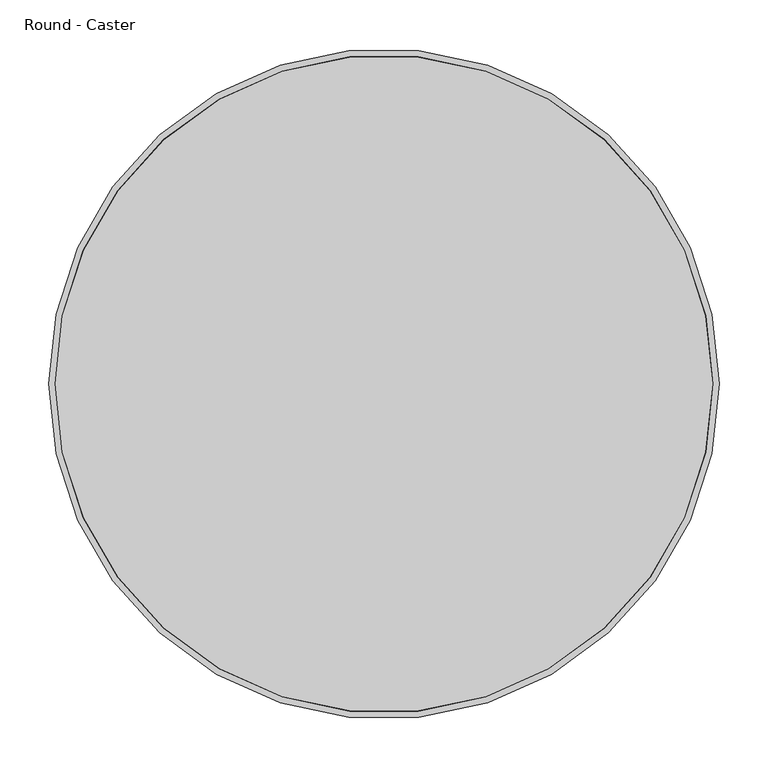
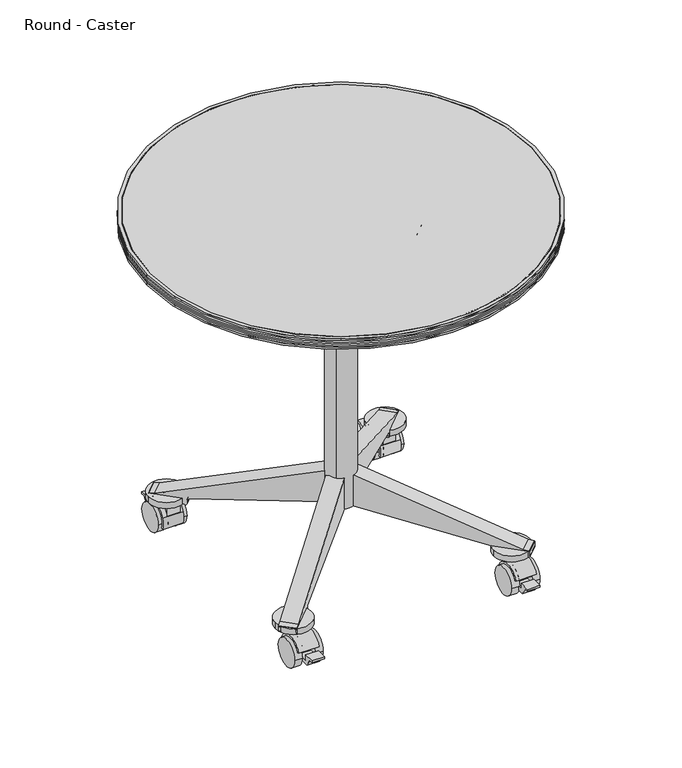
"""IFC4 building model written with IfcOpenShell, lengths in millimetres: furniture geometry, Coalesse_AM_Table_Conference_Ballet_Side : Round - Caster."""

from ifc_helpers import new_model, si_unit, point, frame, frame_2d, origin, origin_with_axes, origin_2d, place, context, project, spatial, polyline, circle_curve, trimmed, segment, composite_curve, outline, extrude, source, transform, mapped, element, save
from ifc_brep_helpers import plane_surface, cylinder_surface, revolved_surface, advanced_brep


def round_caster_d703c492(model_context):
    return source(origin(), model_context, "Body", "SolidModel", [
        extrude(outline(composite_curve([segment(polyline([(-37.2834365, 26.9246599), (-26.8661847, 37.3419116)]), True, "CONTINUOUS"), segment(trimmed(circle_curve(frame_2d((0.0745836, 10.4011432)), 38.1), [point((-26.8661847, 37.3419116))], [point((27.015352, 37.3419116))], False, "CARTESIAN"), True, "CONTINUOUS"), segment(polyline([(27.015352, 37.3419116), (38.9313594, 25.4259042)]), True, "CONTINUOUS"), segment(trimmed(circle_curve(frame_2d((13.4893466, -0.0161085)), 35.9804395), [point((38.9313594, 25.4259042))], [point((38.9313594, -25.4581212))], False, "CARTESIAN"), True, "CONTINUOUS"), segment(polyline([(38.9313594, -25.4581212), (27.015352, -37.3741286)]), True, "CONTINUOUS"), segment(trimmed(circle_curve(frame_2d((0.0745836, -10.4333602)), 38.1), [point((27.015352, -37.3741286))], [point((-26.8661847, -37.3741286))], False, "CARTESIAN"), True, "CONTINUOUS"), segment(polyline([(-26.8661847, -37.3741286), (-37.2834365, -26.9568769)]), True, "CONTINUOUS"), segment(trimmed(circle_curve(frame_2d((-10.3426681, -0.0161085)), 38.1), [point((-37.2834365, -26.9568769))], [point((-37.2834365, 26.9246599))], False, "CARTESIAN"), True, "CONTINUOUS")], self_intersect=False)), frame((0.0, 0.0, 536.3169247), z_axis=(0.0, 0.0, 1.0), x_axis=(1.0, 0.0, 0.0)), (0.0, 0.0, 1.0), 50.3081696),
        extrude(outline(composite_curve([segment(polyline([(-81.1409418, 49.3084633), (-49.5692956, 80.8801095)]), True, "CONTINUOUS"), segment(trimmed(circle_curve(frame_2d((0.0, 156.1108358)), 90.0931587), [point((-49.5692956, 80.8801095))], [point((49.871233, 81.0799264))], True, "CARTESIAN"), True, "CONTINUOUS"), segment(polyline([(49.871233, 81.0799264), (81.1309866, 49.8201728)]), True, "CONTINUOUS"), segment(trimmed(circle_curve(frame_2d((153.3620811, 0.0)), 87.7461145), [point((81.1309866, 49.8201728))], [point((81.7629451, -50.7241989))], True, "CARTESIAN"), True, "CONTINUOUS"), segment(polyline([(81.7629451, -50.7241989), (50.5881651, -81.8989789)]), True, "CONTINUOUS"), segment(trimmed(circle_curve(frame_2d((0.0, -154.7295322)), 88.6761069), [point((50.5881651, -81.8989789))], [point((-51.0893198, -82.2496499))], True, "CARTESIAN"), True, "CONTINUOUS"), segment(polyline([(-51.0893198, -82.2496499), (-82.3248918, -51.014078)]), True, "CONTINUOUS"), segment(trimmed(circle_curve(frame_2d((-153.9959305, 0.0)), 87.9725749), [point((-82.3248918, -51.014078))], [point((-81.1409418, 49.3084633))], True, "CARTESIAN"), True, "CONTINUOUS")], self_intersect=False)), frame((0.0, 0.0, 563.948073), z_axis=(0.0, 0.0, 1.0), x_axis=(1.0, 0.0, 0.0)), (0.0, 0.0, 1.0), 22.6770213),
        extrude(outline(composite_curve([segment(polyline([(114.3, 0.0), (115.2263736, -5.2537258)]), True, "CONTINUOUS"), segment(trimmed(circle_curve(frame_2d((109.4080133, -6.2796597)), 5.9081179), [point((115.2263736, -5.2537258))], [point((112.3666622, -11.3935872))], False, "CARTESIAN"), True, "CONTINUOUS"), segment(trimmed(circle_curve(frame_2d((-123.1481635, 395.6860679)), 470.2989248), [point((112.3666622, -11.3935872))], [point((-41.1216208, -67.404339))], False, "CARTESIAN"), True, "CONTINUOUS"), segment(trimmed(circle_curve(frame_2d((-123.1481635, 395.6860679)), 470.2989248), [point((-41.1216208, -67.404339))], [point((-66.3652264, -71.172344))], False, "CARTESIAN"), True, "CONTINUOUS"), segment(trimmed(circle_curve(frame_2d((-64.5887584, -85.7781231)), 14.7134164), [point((-66.3652264, -71.172344))], [point((-76.9601862, -77.8136775))], True, "CARTESIAN"), True, "CONTINUOUS"), segment(trimmed(circle_curve(frame_2d((-64.5887584, -85.7781231)), 14.7134164), [point((-76.9601862, -77.8136775))], [point((-79.0764227, -88.3456516))], True, "CARTESIAN"), True, "CONTINUOUS"), segment(trimmed(circle_curve(frame_2d((-82.4829244, -88.9493576)), 3.4595829), [point((-79.0764227, -88.3456516))], [point((-81.6450497, -92.3059452))], False, "CARTESIAN"), True, "CONTINUOUS"), segment(polyline([(-81.6450497, -92.3059452), (-160.9573766, -92.3059452)]), True, "CONTINUOUS"), segment(trimmed(circle_curve(frame_2d((-160.119502, -88.9493576)), 3.4595829), [point((-160.9573766, -92.3059452))], [point((-163.5260036, -88.3456516))], False, "CARTESIAN"), True, "CONTINUOUS"), segment(trimmed(circle_curve(frame_2d((-178.0136679, -85.7781231)), 14.7134164), [point((-163.5260036, -88.3456516))], [point((-165.6422401, -77.8136775))], True, "CARTESIAN"), True, "CONTINUOUS"), segment(trimmed(circle_curve(frame_2d((-178.0136679, -85.7781231)), 14.7134164), [point((-165.6422401, -77.8136775))], [point((-176.2372, -71.172344))], True, "CARTESIAN"), True, "CONTINUOUS"), segment(trimmed(circle_curve(frame_2d((-119.4542628, 395.6860679)), 470.2989248), [point((-176.2372, -71.172344))], [point((-201.4808056, -67.404339))], False, "CARTESIAN"), True, "CONTINUOUS"), segment(trimmed(circle_curve(frame_2d((-119.4542628, 395.6860679)), 470.2989248), [point((-201.4808056, -67.404339))], [point((-354.9690885, -11.3935872))], False, "CARTESIAN"), True, "CONTINUOUS"), segment(trimmed(circle_curve(frame_2d((-352.0104397, -6.2796597)), 5.9081179), [point((-354.9690885, -11.3935872))], [point((-357.8288, -5.2537258))], False, "CARTESIAN"), True, "CONTINUOUS"), segment(polyline([(-357.8288, -5.2537258), (-356.9024264, 0.0), (-242.6024263, 0.0)]), True, "CONTINUOUS"), segment(trimmed(circle_curve(frame_2d((-184.587638, 17.529313)), 60.6052183), [point((-242.6024263, 0.0))], [point((-195.8254097, -42.0249058))], True, "CARTESIAN"), True, "CONTINUOUS"), segment(trimmed(circle_curve(frame_2d((-133.7603939, 286.8867003)), 334.7161645), [point((-195.8254097, -42.0249058))], [point((-152.4418907, -47.3077229))], True, "CARTESIAN"), True, "CONTINUOUS"), segment(trimmed(circle_curve(frame_2d((-151.7916573, -35.6756582)), 11.6502245), [point((-152.4418907, -47.3077229))], [point((-142.023608, -42.0249058))], True, "CARTESIAN"), True, "CONTINUOUS"), segment(polyline([(-142.023608, -42.0249058), (-100.5788184, -42.0249058)]), True, "CONTINUOUS"), segment(trimmed(circle_curve(frame_2d((-90.810769, -35.6756582)), 11.6502245), [point((-100.5788184, -42.0249058))], [point((-90.1605356, -47.3077229))], True, "CARTESIAN"), True, "CONTINUOUS"), segment(trimmed(circle_curve(frame_2d((-108.8420324, 286.8867003)), 334.7161645), [point((-90.1605356, -47.3077229))], [point((-46.7770167, -42.0249058))], True, "CARTESIAN"), True, "CONTINUOUS"), segment(trimmed(circle_curve(frame_2d((-58.0147883, 17.529313)), 60.6052183), [point((-46.7770167, -42.0249058))], [point((0.0, 0.0))], True, "CARTESIAN"), True, "CONTINUOUS"), segment(polyline([(0.0, 0.0), (114.3, 0.0)]), True, "CONTINUOUS")], self_intersect=False)), frame((-101.4283173, 70.1175035, 628.65), z_axis=(0.7071067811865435, 0.7071067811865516, 0.0), x_axis=(-0.7071067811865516, 0.7071067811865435, 0.0)), (0.0, 0.0, 1.0), 44.2801776),
        extrude(outline(composite_curve([segment(polyline([(114.3, 0.0), (115.2263736, -5.2537258)]), True, "CONTINUOUS"), segment(trimmed(circle_curve(frame_2d((109.4080133, -6.2796597)), 5.9081179), [point((115.2263736, -5.2537258))], [point((112.3666622, -11.3935872))], False, "CARTESIAN"), True, "CONTINUOUS"), segment(trimmed(circle_curve(frame_2d((-123.1481635, 395.6860679)), 470.2989248), [point((112.3666622, -11.3935872))], [point((-41.1216208, -67.404339))], False, "CARTESIAN"), True, "CONTINUOUS"), segment(trimmed(circle_curve(frame_2d((-123.1481635, 395.6860679)), 470.2989248), [point((-41.1216208, -67.404339))], [point((-66.3652264, -71.172344))], False, "CARTESIAN"), True, "CONTINUOUS"), segment(trimmed(circle_curve(frame_2d((-64.5887584, -85.7781231)), 14.7134164), [point((-66.3652264, -71.172344))], [point((-76.9601862, -77.8136775))], True, "CARTESIAN"), True, "CONTINUOUS"), segment(trimmed(circle_curve(frame_2d((-64.5887584, -85.7781231)), 14.7134164), [point((-76.9601862, -77.8136775))], [point((-79.0764227, -88.3456516))], True, "CARTESIAN"), True, "CONTINUOUS"), segment(trimmed(circle_curve(frame_2d((-82.4829244, -88.9493576)), 3.4595829), [point((-79.0764227, -88.3456516))], [point((-81.6450497, -92.3059452))], False, "CARTESIAN"), True, "CONTINUOUS"), segment(polyline([(-81.6450497, -92.3059452), (-160.9573766, -92.3059452)]), True, "CONTINUOUS"), segment(trimmed(circle_curve(frame_2d((-160.119502, -88.9493576)), 3.4595829), [point((-160.9573766, -92.3059452))], [point((-163.5260036, -88.3456516))], False, "CARTESIAN"), True, "CONTINUOUS"), segment(trimmed(circle_curve(frame_2d((-178.0136679, -85.7781231)), 14.7134164), [point((-163.5260036, -88.3456516))], [point((-165.6422401, -77.8136775))], True, "CARTESIAN"), True, "CONTINUOUS"), segment(trimmed(circle_curve(frame_2d((-178.0136679, -85.7781231)), 14.7134164), [point((-165.6422401, -77.8136775))], [point((-176.2372, -71.172344))], True, "CARTESIAN"), True, "CONTINUOUS"), segment(trimmed(circle_curve(frame_2d((-119.4542628, 395.6860679)), 470.2989248), [point((-176.2372, -71.172344))], [point((-201.4808056, -67.404339))], False, "CARTESIAN"), True, "CONTINUOUS"), segment(trimmed(circle_curve(frame_2d((-119.4542628, 395.6860679)), 470.2989248), [point((-201.4808056, -67.404339))], [point((-354.9690885, -11.3935872))], False, "CARTESIAN"), True, "CONTINUOUS"), segment(trimmed(circle_curve(frame_2d((-352.0104397, -6.2796597)), 5.9081179), [point((-354.9690885, -11.3935872))], [point((-357.8288, -5.2537258))], False, "CARTESIAN"), True, "CONTINUOUS"), segment(polyline([(-357.8288, -5.2537258), (-356.9024264, 0.0), (-242.6024263, 0.0)]), True, "CONTINUOUS"), segment(trimmed(circle_curve(frame_2d((-184.587638, 17.529313)), 60.6052183), [point((-242.6024263, 0.0))], [point((-195.8254097, -42.0249058))], True, "CARTESIAN"), True, "CONTINUOUS"), segment(trimmed(circle_curve(frame_2d((-133.7603939, 286.8867003)), 334.7161645), [point((-195.8254097, -42.0249058))], [point((-152.4418907, -47.3077229))], True, "CARTESIAN"), True, "CONTINUOUS"), segment(trimmed(circle_curve(frame_2d((-151.7916573, -35.6756582)), 11.6502245), [point((-152.4418907, -47.3077229))], [point((-142.023608, -42.0249058))], True, "CARTESIAN"), True, "CONTINUOUS"), segment(polyline([(-142.023608, -42.0249058), (-100.5788184, -42.0249058)]), True, "CONTINUOUS"), segment(trimmed(circle_curve(frame_2d((-90.810769, -35.6756582)), 11.6502245), [point((-100.5788184, -42.0249058))], [point((-90.1605356, -47.3077229))], True, "CARTESIAN"), True, "CONTINUOUS"), segment(trimmed(circle_curve(frame_2d((-108.8420324, 286.8867003)), 334.7161645), [point((-90.1605356, -47.3077229))], [point((-46.7770167, -42.0249058))], True, "CARTESIAN"), True, "CONTINUOUS"), segment(trimmed(circle_curve(frame_2d((-58.0147883, 17.529313)), 60.6052183), [point((-46.7770167, -42.0249058))], [point((0.0, 0.0))], True, "CARTESIAN"), True, "CONTINUOUS"), segment(polyline([(0.0, 0.0), (114.3, 0.0)]), True, "CONTINUOUS")], self_intersect=False)), frame((-70.1175035, -101.4283173, 628.65), z_axis=(-0.7071067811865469, 0.7071067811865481, 0.0), x_axis=(-0.7071067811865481, -0.7071067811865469, 0.0)), (0.0, 0.0, 1.0), 44.2801776),
        extrude(outline(composite_curve([segment(trimmed(circle_curve(frame_2d((209.2741105, 25.3444377)), 28.8343721), [point((182.4395783, 14.7931869))], [point((182.4395783, 35.8956886))], False, "CARTESIAN"), True, "CONTINUOUS"), segment(trimmed(circle_curve(frame_2d((207.8788336, 25.8930561)), 27.3351124), [point((182.4395783, 35.8956886))], [point((197.8152878, 51.3082762))], False, "CARTESIAN"), True, "CONTINUOUS"), segment(trimmed(circle_curve(frame_2d((209.4353674, 26.7032164)), 27.2109394), [point((197.8152878, 51.3082762))], [point((234.6796249, 36.8601197))], False, "CARTESIAN"), True, "CONTINUOUS"), segment(polyline([(234.6796249, 36.8601197), (231.2540436, 35.7749086)]), True, "CONTINUOUS"), segment(trimmed(circle_curve(frame_2d((208.7663144, 24.9907393)), 24.9398531), [point((231.2540436, 35.7749086))], [point((185.3508649, 16.4051117))], True, "CARTESIAN"), True, "CONTINUOUS"), segment(polyline([(185.3508649, 16.4051117), (182.4395783, 14.7931869)]), True, "CONTINUOUS")], self_intersect=False)), frame((174.0984431, 0.0, 0.0), z_axis=(1.0, 0.0, 0.0), x_axis=(0.0, 1.0, 0.0)), (0.0, 0.0, 1.0), 36.0286787),
        extrude(outline(composite_curve([segment(trimmed(circle_curve(frame_2d((208.7663144, 24.9907393)), 24.9398531), [point((233.7061675, 24.9907393))], [point((183.8264612, 24.9907393))], False, "CARTESIAN"), True, "CONTINUOUS"), segment(trimmed(circle_curve(frame_2d((208.7663144, 24.9907393)), 24.9398531), [point((183.8264612, 24.9907393))], [point((233.7061675, 24.9907393))], False, "CARTESIAN"), True, "CONTINUOUS")], self_intersect=False)), frame((166.2968952, 0.0, 0.0), z_axis=(1.0, 0.0, 0.0), x_axis=(0.0, 1.0, 0.0)), (0.0, 0.0, 1.0), 14.6120158),
        extrude(outline(composite_curve([segment(polyline([(197.8152878, 63.5225277), (197.8152878, 51.3082762)]), True, "CONTINUOUS"), segment(trimmed(circle_curve(frame_2d((209.4353674, 26.7032164)), 27.2109394), [point((197.8152878, 51.3082762))], [point((234.6796249, 36.8601197))], False, "CARTESIAN"), True, "CONTINUOUS"), segment(polyline([(234.6796249, 36.8601197), (219.8001714, 32.1463658), (222.0637731, 25.0010719), (241.3530844, 25.0010719), (241.3530844, 35.1210973), (260.4030844, 35.1210973), (260.4030844, 31.7691038), (253.6776476, 31.7691038), (244.706152, 17.4117096), (218.9375545, 17.4117096)]), True, "CONTINUOUS"), segment(trimmed(circle_curve(frame_2d((208.672695, 25.0010719)), 12.7658043), [point((218.9375545, 17.4117096))], [point((198.9802659, 16.6930892))], False, "CARTESIAN"), True, "CONTINUOUS"), segment(polyline([(198.9802659, 16.6930892), (195.904393, 22.2484025), (182.4395783, 14.7931869)]), True, "CONTINUOUS"), segment(trimmed(circle_curve(frame_2d((209.2741105, 25.3444377)), 28.8343721), [point((182.4395783, 14.7931869))], [point((182.4395783, 35.8956886))], False, "CARTESIAN"), True, "CONTINUOUS"), segment(polyline([(182.4395783, 35.8956886), (182.4395783, 63.5225277), (197.8152878, 63.5225277)]), True, "CONTINUOUS")], self_intersect=False)), frame((179.2633359, 0.0, 0.0), z_axis=(1.0, 0.0, 0.0), x_axis=(0.0, 1.0, 0.0)), (0.0, 0.0, 1.0), 22.3970625),
        extrude(outline(composite_curve([segment(trimmed(circle_curve(frame_2d((208.7663144, 24.9907393)), 24.9398531), [point((233.7061675, 24.9907393))], [point((183.8264612, 24.9907393))], False, "CARTESIAN"), True, "CONTINUOUS"), segment(trimmed(circle_curve(frame_2d((208.7663144, 24.9907393)), 24.9398531), [point((183.8264612, 24.9907393))], [point((233.7061675, 24.9907393))], False, "CARTESIAN"), True, "CONTINUOUS")], self_intersect=False)), frame((203.3322938, 0.0, 0.0), z_axis=(1.0, 0.0, 0.0), x_axis=(0.0, 1.0, 0.0)), (0.0, 0.0, 1.0), 13.7103424),
        extrude(outline(composite_curve([segment(trimmed(circle_curve(frame_2d((209.2741105, 25.3444377)), 28.8343721), [point((182.4395783, 14.7931869))], [point((182.4395783, 35.8956886))], False, "CARTESIAN"), True, "CONTINUOUS"), segment(trimmed(circle_curve(frame_2d((207.8788336, 25.8930561)), 27.3351124), [point((182.4395783, 35.8956886))], [point((197.8152878, 51.3082762))], False, "CARTESIAN"), True, "CONTINUOUS"), segment(trimmed(circle_curve(frame_2d((209.4353674, 26.7032164)), 27.2109394), [point((197.8152878, 51.3082762))], [point((234.6796249, 36.8601197))], False, "CARTESIAN"), True, "CONTINUOUS"), segment(polyline([(234.6796249, 36.8601197), (231.2540436, 35.7749086)]), True, "CONTINUOUS"), segment(trimmed(circle_curve(frame_2d((208.7663144, 24.9907393)), 24.9398531), [point((231.2540436, 35.7749086))], [point((185.3508649, 16.4051117))], True, "CARTESIAN"), True, "CONTINUOUS"), segment(polyline([(185.3508649, 16.4051117), (182.4395783, 14.7931869)]), True, "CONTINUOUS")], self_intersect=False)), frame((-210.1271218, 0.0, 0.0), z_axis=(1.0, 0.0, 0.0), x_axis=(0.0, 1.0, 0.0)), (0.0, 0.0, 1.0), 36.0286787),
        extrude(outline(composite_curve([segment(trimmed(circle_curve(frame_2d((208.7663144, 24.9907393)), 24.9398531), [point((233.7061675, 24.9907393))], [point((183.8264612, 24.9907393))], False, "CARTESIAN"), True, "CONTINUOUS"), segment(trimmed(circle_curve(frame_2d((208.7663144, 24.9907393)), 24.9398531), [point((183.8264612, 24.9907393))], [point((233.7061675, 24.9907393))], False, "CARTESIAN"), True, "CONTINUOUS")], self_intersect=False)), frame((-180.908911, 0.0, 0.0), z_axis=(1.0, 0.0, 0.0), x_axis=(0.0, 1.0, 0.0)), (0.0, 0.0, 1.0), 14.6120158),
        extrude(outline(composite_curve([segment(polyline([(197.8152878, 63.5225277), (197.8152878, 51.3082762)]), True, "CONTINUOUS"), segment(trimmed(circle_curve(frame_2d((209.4353674, 26.7032164)), 27.2109394), [point((197.8152878, 51.3082762))], [point((234.6796249, 36.8601197))], False, "CARTESIAN"), True, "CONTINUOUS"), segment(polyline([(234.6796249, 36.8601197), (219.8001714, 32.1463658), (222.0637731, 25.0010719), (241.3530844, 25.0010719), (241.3530844, 35.1210973), (260.4030844, 35.1210973), (260.4030844, 31.7691038), (253.6776476, 31.7691038), (244.706152, 17.4117096), (218.9375545, 17.4117096)]), True, "CONTINUOUS"), segment(trimmed(circle_curve(frame_2d((208.672695, 25.0010719)), 12.7658043), [point((218.9375545, 17.4117096))], [point((198.9802659, 16.6930892))], False, "CARTESIAN"), True, "CONTINUOUS"), segment(polyline([(198.9802659, 16.6930892), (195.904393, 22.2484025), (182.4395783, 14.7931869)]), True, "CONTINUOUS"), segment(trimmed(circle_curve(frame_2d((209.2741105, 25.3444377)), 28.8343721), [point((182.4395783, 14.7931869))], [point((182.4395783, 35.8956886))], False, "CARTESIAN"), True, "CONTINUOUS"), segment(polyline([(182.4395783, 35.8956886), (182.4395783, 63.5225277), (197.8152878, 63.5225277)]), True, "CONTINUOUS")], self_intersect=False)), frame((-201.6603984, 0.0, 0.0), z_axis=(1.0, 0.0, 0.0), x_axis=(0.0, 1.0, 0.0)), (0.0, 0.0, 1.0), 22.3970625),
        extrude(outline(composite_curve([segment(trimmed(circle_curve(frame_2d((208.7663144, 24.9907393)), 24.9398531), [point((233.7061675, 24.9907393))], [point((183.8264612, 24.9907393))], False, "CARTESIAN"), True, "CONTINUOUS"), segment(trimmed(circle_curve(frame_2d((208.7663144, 24.9907393)), 24.9398531), [point((183.8264612, 24.9907393))], [point((233.7061675, 24.9907393))], False, "CARTESIAN"), True, "CONTINUOUS")], self_intersect=False)), frame((-217.0426362, 0.0, 0.0), z_axis=(1.0, 0.0, 0.0), x_axis=(0.0, 1.0, 0.0)), (0.0, 0.0, 1.0), 13.7103424),
        extrude(outline(composite_curve([segment(polyline([(-182.4395783, 14.7931869), (-185.3508649, 16.4051117)]), True, "CONTINUOUS"), segment(trimmed(circle_curve(frame_2d((-208.7663144, 24.9907393)), 24.9398531), [point((-185.3508649, 16.4051117))], [point((-231.2540436, 35.7749086))], True, "CARTESIAN"), True, "CONTINUOUS"), segment(polyline([(-231.2540436, 35.7749086), (-234.6796249, 36.8601197)]), True, "CONTINUOUS"), segment(trimmed(circle_curve(frame_2d((-209.4353674, 26.7032164)), 27.2109394), [point((-234.6796249, 36.8601197))], [point((-197.8152878, 51.3082762))], False, "CARTESIAN"), True, "CONTINUOUS"), segment(trimmed(circle_curve(frame_2d((-207.8788336, 25.8930561)), 27.3351124), [point((-197.8152878, 51.3082762))], [point((-182.4395783, 35.8956886))], False, "CARTESIAN"), True, "CONTINUOUS"), segment(trimmed(circle_curve(frame_2d((-209.2741105, 25.3444377)), 28.8343721), [point((-182.4395783, 35.8956886))], [point((-182.4395783, 14.7931869))], False, "CARTESIAN"), True, "CONTINUOUS")], self_intersect=False)), frame((-210.1271218, 0.0, 0.0), z_axis=(1.0, 0.0, 0.0), x_axis=(0.0, 1.0, 0.0)), (0.0, 0.0, 1.0), 36.0286787),
        extrude(outline(composite_curve([segment(trimmed(circle_curve(frame_2d((-208.7663144, 24.9907393)), 24.9398531), [point((-233.7061675, 24.9907393))], [point((-183.8264612, 24.9907393))], False, "CARTESIAN"), True, "CONTINUOUS"), segment(trimmed(circle_curve(frame_2d((-208.7663144, 24.9907393)), 24.9398531), [point((-183.8264612, 24.9907393))], [point((-233.7061675, 24.9907393))], False, "CARTESIAN"), True, "CONTINUOUS")], self_intersect=False)), frame((-180.908911, 0.0, 0.0), z_axis=(1.0, 0.0, 0.0), x_axis=(0.0, 1.0, 0.0)), (0.0, 0.0, 1.0), 14.6120158),
        extrude(outline(composite_curve([segment(polyline([(-197.8152878, 63.5225277), (-182.4395783, 63.5225277), (-182.4395783, 35.8956886)]), True, "CONTINUOUS"), segment(trimmed(circle_curve(frame_2d((-209.2741105, 25.3444377)), 28.8343721), [point((-182.4395783, 35.8956886))], [point((-182.4395783, 14.7931869))], False, "CARTESIAN"), True, "CONTINUOUS"), segment(polyline([(-182.4395783, 14.7931869), (-195.904393, 22.2484025), (-198.9802659, 16.6930892)]), True, "CONTINUOUS"), segment(trimmed(circle_curve(frame_2d((-208.672695, 25.0010719)), 12.7658043), [point((-198.9802659, 16.6930892))], [point((-218.9375545, 17.4117096))], False, "CARTESIAN"), True, "CONTINUOUS"), segment(polyline([(-218.9375545, 17.4117096), (-244.706152, 17.4117096), (-253.6776476, 31.7691038), (-260.4030844, 31.7691038), (-260.4030844, 35.1210973), (-241.3530844, 35.1210973), (-241.3530844, 25.0010719), (-222.0637731, 25.0010719), (-219.8001714, 32.1463658), (-234.6796249, 36.8601197)]), True, "CONTINUOUS"), segment(trimmed(circle_curve(frame_2d((-209.4353674, 26.7032164)), 27.2109394), [point((-234.6796249, 36.8601197))], [point((-197.8152878, 51.3082762))], False, "CARTESIAN"), True, "CONTINUOUS"), segment(polyline([(-197.8152878, 51.3082762), (-197.8152878, 63.5225277)]), True, "CONTINUOUS")], self_intersect=False)), frame((-201.6603984, 0.0, 0.0), z_axis=(1.0, 0.0, 0.0), x_axis=(0.0, 1.0, 0.0)), (0.0, 0.0, 1.0), 22.3970625),
        extrude(outline(composite_curve([segment(trimmed(circle_curve(frame_2d((-208.7663144, 24.9907393)), 24.9398531), [point((-233.7061675, 24.9907393))], [point((-183.8264612, 24.9907393))], False, "CARTESIAN"), True, "CONTINUOUS"), segment(trimmed(circle_curve(frame_2d((-208.7663144, 24.9907393)), 24.9398531), [point((-183.8264612, 24.9907393))], [point((-233.7061675, 24.9907393))], False, "CARTESIAN"), True, "CONTINUOUS")], self_intersect=False)), frame((-217.0426362, 0.0, 0.0), z_axis=(1.0, 0.0, 0.0), x_axis=(0.0, 1.0, 0.0)), (0.0, 0.0, 1.0), 13.7103424),
        extrude(outline(composite_curve([segment(polyline([(-182.4395783, 14.7931869), (-185.3508649, 16.4051117)]), True, "CONTINUOUS"), segment(trimmed(circle_curve(frame_2d((-208.7663144, 24.9907393)), 24.9398531), [point((-185.3508649, 16.4051117))], [point((-231.2540436, 35.7749086))], True, "CARTESIAN"), True, "CONTINUOUS"), segment(polyline([(-231.2540436, 35.7749086), (-234.6796249, 36.8601197)]), True, "CONTINUOUS"), segment(trimmed(circle_curve(frame_2d((-209.4353674, 26.7032164)), 27.2109394), [point((-234.6796249, 36.8601197))], [point((-197.8152878, 51.3082762))], False, "CARTESIAN"), True, "CONTINUOUS"), segment(trimmed(circle_curve(frame_2d((-207.8788336, 25.8930561)), 27.3351124), [point((-197.8152878, 51.3082762))], [point((-182.4395783, 35.8956886))], False, "CARTESIAN"), True, "CONTINUOUS"), segment(trimmed(circle_curve(frame_2d((-209.2741105, 25.3444377)), 28.8343721), [point((-182.4395783, 35.8956886))], [point((-182.4395783, 14.7931869))], False, "CARTESIAN"), True, "CONTINUOUS")], self_intersect=False)), frame((174.0984431, 0.0, 0.0), z_axis=(1.0, 0.0, 0.0), x_axis=(0.0, 1.0, 0.0)), (0.0, 0.0, 1.0), 36.0286787),
        extrude(outline(composite_curve([segment(trimmed(circle_curve(frame_2d((-208.7663144, 24.9907393)), 24.9398531), [point((-233.7061675, 24.9907393))], [point((-183.8264612, 24.9907393))], False, "CARTESIAN"), True, "CONTINUOUS"), segment(trimmed(circle_curve(frame_2d((-208.7663144, 24.9907393)), 24.9398531), [point((-183.8264612, 24.9907393))], [point((-233.7061675, 24.9907393))], False, "CARTESIAN"), True, "CONTINUOUS")], self_intersect=False)), frame((166.2968952, 0.0, 0.0), z_axis=(1.0, 0.0, 0.0), x_axis=(0.0, 1.0, 0.0)), (0.0, 0.0, 1.0), 14.6120158),
        extrude(outline(composite_curve([segment(polyline([(-197.8152878, 63.5225277), (-182.4395783, 63.5225277), (-182.4395783, 35.8956886)]), True, "CONTINUOUS"), segment(trimmed(circle_curve(frame_2d((-209.2741105, 25.3444377)), 28.8343721), [point((-182.4395783, 35.8956886))], [point((-182.4395783, 14.7931869))], False, "CARTESIAN"), True, "CONTINUOUS"), segment(polyline([(-182.4395783, 14.7931869), (-195.904393, 22.2484025), (-198.9802659, 16.6930892)]), True, "CONTINUOUS"), segment(trimmed(circle_curve(frame_2d((-208.672695, 25.0010719)), 12.7658043), [point((-198.9802659, 16.6930892))], [point((-218.9375545, 17.4117096))], False, "CARTESIAN"), True, "CONTINUOUS"), segment(polyline([(-218.9375545, 17.4117096), (-244.706152, 17.4117096), (-253.6776476, 31.7691038), (-260.4030844, 31.7691038), (-260.4030844, 35.1210973), (-241.3530844, 35.1210973), (-241.3530844, 25.0010719), (-222.0637731, 25.0010719), (-219.8001714, 32.1463658), (-234.6796249, 36.8601197)]), True, "CONTINUOUS"), segment(trimmed(circle_curve(frame_2d((-209.4353674, 26.7032164)), 27.2109394), [point((-234.6796249, 36.8601197))], [point((-197.8152878, 51.3082762))], False, "CARTESIAN"), True, "CONTINUOUS"), segment(polyline([(-197.8152878, 51.3082762), (-197.8152878, 63.5225277)]), True, "CONTINUOUS")], self_intersect=False)), frame((179.2633359, 0.0, 0.0), z_axis=(1.0, 0.0, 0.0), x_axis=(0.0, 1.0, 0.0)), (0.0, 0.0, 1.0), 22.3970625),
        extrude(outline(composite_curve([segment(trimmed(circle_curve(frame_2d((-208.7663144, 24.9907393)), 24.9398531), [point((-233.7061675, 24.9907393))], [point((-183.8264612, 24.9907393))], False, "CARTESIAN"), True, "CONTINUOUS"), segment(trimmed(circle_curve(frame_2d((-208.7663144, 24.9907393)), 24.9398531), [point((-183.8264612, 24.9907393))], [point((-233.7061675, 24.9907393))], False, "CARTESIAN"), True, "CONTINUOUS")], self_intersect=False)), frame((203.3322938, 0.0, 0.0), z_axis=(1.0, 0.0, 0.0), x_axis=(0.0, 1.0, 0.0)), (0.0, 0.0, 1.0), 13.7103424),
        extrude(outline(composite_curve([segment(trimmed(circle_curve(frame_2d((-194.715793, 197.3207687)), 31.75), [point((-226.465793, 197.3207687))], [point((-162.965793, 197.3207687))], False, "CARTESIAN"), True, "CONTINUOUS"), segment(trimmed(circle_curve(frame_2d((-194.715793, 197.3207687)), 31.75), [point((-162.965793, 197.3207687))], [point((-226.465793, 197.3207687))], False, "CARTESIAN"), True, "CONTINUOUS")], self_intersect=False)), frame((0.0, 0.0, 62.0397209), z_axis=(0.0, 0.0, 1.0), x_axis=(1.0, 0.0, 0.0)), (0.0, 0.0, 1.0), 10.7840801),
        extrude(outline(composite_curve([segment(trimmed(circle_curve(frame_2d((191.7194605, 196.5270187)), 31.75), [point((159.9694605, 196.5270187))], [point((223.4694605, 196.5270187))], False, "CARTESIAN"), True, "CONTINUOUS"), segment(trimmed(circle_curve(frame_2d((191.7194605, 196.5270187)), 31.75), [point((223.4694605, 196.5270187))], [point((159.9694605, 196.5270187))], False, "CARTESIAN"), True, "CONTINUOUS")], self_intersect=False)), frame((0.0, 0.0, 62.0397209), z_axis=(0.0, 0.0, 1.0), x_axis=(1.0, 0.0, 0.0)), (0.0, 0.0, 1.0), 10.7840801),
        extrude(outline(composite_curve([segment(trimmed(circle_curve(frame_2d((-194.715793, -191.2787692)), 31.75), [point((-226.465793, -191.2787692))], [point((-162.965793, -191.2787692))], False, "CARTESIAN"), True, "CONTINUOUS"), segment(trimmed(circle_curve(frame_2d((-194.715793, -191.2787692)), 31.75), [point((-162.965793, -191.2787692))], [point((-226.465793, -191.2787692))], False, "CARTESIAN"), True, "CONTINUOUS")], self_intersect=False)), frame((0.0, 0.0, 62.0397209), z_axis=(0.0, 0.0, 1.0), x_axis=(1.0, 0.0, 0.0)), (0.0, 0.0, 1.0), 10.7840801),
        extrude(outline(composite_curve([segment(trimmed(circle_curve(frame_2d((191.7194605, -190.4850192)), 31.75), [point((159.9694605, -190.4850192))], [point((223.4694605, -190.4850192))], False, "CARTESIAN"), True, "CONTINUOUS"), segment(trimmed(circle_curve(frame_2d((191.7194605, -190.4850192)), 31.75), [point((223.4694605, -190.4850192))], [point((159.9694605, -190.4850192))], False, "CARTESIAN"), True, "CONTINUOUS")], self_intersect=False)), frame((0.0, 0.0, 62.0397209), z_axis=(0.0, 0.0, 1.0), x_axis=(1.0, 0.0, 0.0)), (0.0, 0.0, 1.0), 10.7840801),
        extrude(outline(composite_curve([segment(polyline([(-57.749273, 0.0), (0.0, 0.0), (-90.9931074, -269.8641919), (-92.3030079, -279.1846177)]), True, "CONTINUOUS"), segment(trimmed(circle_curve(frame_2d((-93.9206951, -278.9572666)), 1.6335852), [point((-92.3030079, -279.1846177))], [point((-93.8206014, -280.5877823))], False, "CARTESIAN"), True, "CONTINUOUS"), segment(trimmed(circle_curve(frame_2d((-95.8523928, -247.4901147)), 33.1599725), [point((-93.8206014, -280.5877823))], [point((-101.682402, -280.1335639))], False, "CARTESIAN"), True, "CONTINUOUS"), segment(trimmed(circle_curve(frame_2d((-101.2796868, -277.8786768)), 2.2905666), [point((-101.682402, -280.1335639))], [point((-103.5674671, -277.7657306))], False, "CARTESIAN"), True, "CONTINUOUS"), segment(polyline([(-103.5674671, -277.7657306), (-103.5674671, -222.4322812)]), True, "CONTINUOUS"), segment(trimmed(circle_curve(frame_2d((-100.6154331, -221.9840334)), 2.9858719), [point((-103.5674671, -222.4322812))], [point((-100.2998684, -219.0148838))], False, "CARTESIAN"), True, "CONTINUOUS"), segment(trimmed(circle_curve(frame_2d((-98.3053249, -200.2482144)), 18.872363), [point((-100.2998684, -219.0148838))], [point((-94.5016021, -218.7332835))], True, "CARTESIAN"), True, "CONTINUOUS"), segment(trimmed(circle_curve(frame_2d((-95.1495986, -215.5841949)), 3.2150673), [point((-94.5016021, -218.7332835))], [point((-91.9741141, -216.0871422))], True, "CARTESIAN"), True, "CONTINUOUS"), segment(polyline([(-91.9741141, -216.0871422), (-57.749273, 0.0)]), True, "CONTINUOUS")], self_intersect=False)), frame((-23.5273141, 7.7834997, 165.607188), z_axis=(0.7071067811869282, 0.707106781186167, 0.0), x_axis=(0.0, 0.0, 1.0)), (0.0, 0.0, 1.0), 29.2174476),
        extrude(outline(composite_curve([segment(polyline([(-57.749273, 44.2801775), (-91.9741141, 260.3673198)]), True, "CONTINUOUS"), segment(trimmed(circle_curve(frame_2d((-95.1495986, 259.8643724)), 3.2150673), [point((-91.9741141, 260.3673198))], [point((-94.5016021, 263.013461))], True, "CARTESIAN"), True, "CONTINUOUS"), segment(trimmed(circle_curve(frame_2d((-98.3053249, 244.5283919)), 18.872363), [point((-94.5016021, 263.013461))], [point((-100.2998684, 263.2950613))], True, "CARTESIAN"), True, "CONTINUOUS"), segment(trimmed(circle_curve(frame_2d((-100.6154331, 266.2642109)), 2.9858719), [point((-100.2998684, 263.2950613))], [point((-103.5674671, 266.7124587))], False, "CARTESIAN"), True, "CONTINUOUS"), segment(polyline([(-103.5674671, 266.7124587), (-103.5674671, 322.0459081)]), True, "CONTINUOUS"), segment(trimmed(circle_curve(frame_2d((-101.2796868, 322.1588543)), 2.2905666), [point((-103.5674671, 322.0459081))], [point((-101.682402, 324.4137415))], False, "CARTESIAN"), True, "CONTINUOUS"), segment(trimmed(circle_curve(frame_2d((-95.8523928, 291.7702923)), 33.1599725), [point((-101.682402, 324.4137415))], [point((-93.8206014, 324.8679598))], False, "CARTESIAN"), True, "CONTINUOUS"), segment(trimmed(circle_curve(frame_2d((-93.9206951, 323.2374442)), 1.6335852), [point((-93.8206014, 324.8679598))], [point((-92.3030079, 323.4647953))], False, "CARTESIAN"), True, "CONTINUOUS"), segment(polyline([(-92.3030079, 323.4647953), (-90.9931074, 314.1443694), (0.0, 44.2801775), (-57.749273, 44.2801775)]), True, "CONTINUOUS")], self_intersect=False)), frame((-23.5273141, 7.7834997, 165.607188), z_axis=(0.7071067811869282, 0.707106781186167, 0.0), x_axis=(0.0, 0.0, 1.0)), (0.0, 0.0, 1.0), 29.2174476),
        extrude(outline(composite_curve([segment(polyline([(-57.749273, 0.0), (0.0, 0.0), (-90.9931074, -269.8641919), (-92.3030079, -279.1846177)]), True, "CONTINUOUS"), segment(trimmed(circle_curve(frame_2d((-93.9206951, -278.9572666)), 1.6335852), [point((-92.3030079, -279.1846177))], [point((-93.8206014, -280.5877823))], False, "CARTESIAN"), True, "CONTINUOUS"), segment(trimmed(circle_curve(frame_2d((-95.8523928, -247.4901147)), 33.1599725), [point((-93.8206014, -280.5877823))], [point((-101.682402, -280.1335639))], False, "CARTESIAN"), True, "CONTINUOUS"), segment(trimmed(circle_curve(frame_2d((-101.2796868, -277.8786768)), 2.2905666), [point((-101.682402, -280.1335639))], [point((-103.5674671, -277.7657306))], False, "CARTESIAN"), True, "CONTINUOUS"), segment(polyline([(-103.5674671, -277.7657306), (-103.5674671, -222.4322812)]), True, "CONTINUOUS"), segment(trimmed(circle_curve(frame_2d((-100.6154331, -221.9840334)), 2.9858719), [point((-103.5674671, -222.4322812))], [point((-100.2998684, -219.0148838))], False, "CARTESIAN"), True, "CONTINUOUS"), segment(trimmed(circle_curve(frame_2d((-98.3053249, -200.2482144)), 18.872363), [point((-100.2998684, -219.0148838))], [point((-94.5016021, -218.7332835))], True, "CARTESIAN"), True, "CONTINUOUS"), segment(trimmed(circle_curve(frame_2d((-95.1495986, -215.5841949)), 3.2150673), [point((-94.5016021, -218.7332835))], [point((-91.9741141, -216.0871422))], True, "CARTESIAN"), True, "CONTINUOUS"), segment(polyline([(-91.9741141, -216.0871422), (-57.749273, 0.0)]), True, "CONTINUOUS")], self_intersect=False)), frame((-7.7834997, -23.5273141, 165.607188), z_axis=(-0.7071067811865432, 0.7071067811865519, 0.0), x_axis=(0.0, 0.0, 1.0)), (0.0, 0.0, 1.0), 29.2174476),
        extrude(outline(composite_curve([segment(polyline([(-57.749273, 44.2801775), (-91.9741141, 260.3673198)]), True, "CONTINUOUS"), segment(trimmed(circle_curve(frame_2d((-95.1495986, 259.8643724)), 3.2150673), [point((-91.9741141, 260.3673198))], [point((-94.5016021, 263.013461))], True, "CARTESIAN"), True, "CONTINUOUS"), segment(trimmed(circle_curve(frame_2d((-98.3053249, 244.5283919)), 18.872363), [point((-94.5016021, 263.013461))], [point((-100.2998684, 263.2950613))], True, "CARTESIAN"), True, "CONTINUOUS"), segment(trimmed(circle_curve(frame_2d((-100.6154331, 266.2642109)), 2.9858719), [point((-100.2998684, 263.2950613))], [point((-103.5674671, 266.7124587))], False, "CARTESIAN"), True, "CONTINUOUS"), segment(polyline([(-103.5674671, 266.7124587), (-103.5674671, 322.0459081)]), True, "CONTINUOUS"), segment(trimmed(circle_curve(frame_2d((-101.2796868, 322.1588543)), 2.2905666), [point((-103.5674671, 322.0459081))], [point((-101.682402, 324.4137415))], False, "CARTESIAN"), True, "CONTINUOUS"), segment(trimmed(circle_curve(frame_2d((-95.8523928, 291.7702923)), 33.1599725), [point((-101.682402, 324.4137415))], [point((-93.8206014, 324.8679598))], False, "CARTESIAN"), True, "CONTINUOUS"), segment(trimmed(circle_curve(frame_2d((-93.9206951, 323.2374442)), 1.6335852), [point((-93.8206014, 324.8679598))], [point((-92.3030079, 323.4647953))], False, "CARTESIAN"), True, "CONTINUOUS"), segment(polyline([(-92.3030079, 323.4647953), (-90.9931074, 314.1443694), (0.0, 44.2801775), (-57.749273, 44.2801775)]), True, "CONTINUOUS")], self_intersect=False)), frame((-7.7834997, -23.5273141, 165.607188), z_axis=(-0.7071067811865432, 0.7071067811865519, 0.0), x_axis=(0.0, 0.0, 1.0)), (0.0, 0.0, 1.0), 29.2174476),
        extrude(outline(composite_curve([segment(trimmed(circle_curve(frame_2d((1.04e-05, -1.04e-05)), 25.3999999), [point((-17.9605018, -17.9605225))], [point((17.9605225, 17.9605018))], False, "CARTESIAN"), True, "CONTINUOUS"), segment(trimmed(circle_curve(frame_2d((1.04e-05, -1.04e-05)), 25.3999999), [point((17.9605225, 17.9605018))], [point((-17.9605018, -17.9605225))], False, "CARTESIAN"), True, "CONTINUOUS")], self_intersect=False)), frame((0.0, 0.0, 107.857915), z_axis=(0.0, 0.0, 1.0), x_axis=(1.0, 0.0, 0.0)), (0.0, 0.0, 1.0), 428.4590096),
        advanced_brep(
        [(343.0539501, 0.0, 631.8220658), (-343.0539501, 0.0, 631.8220658), (-343.0539501, 0.0, 628.65), (343.0539501, 0.0, 628.65), (339.8911929, 0.0, 633.4335711), (-339.8911929, 0.0, 633.4335711), (343.014825, 0.0, 634.9903832), (-343.014825, 0.0, 634.9903832), (339.8527767, 0.0, 636.574009), (-339.8527767, 0.0, 636.574009), (343.0576229, 0.0, 638.171298), (-343.0576229, 0.0, 638.171298), (339.8781704, 0.0, 639.7636402), (-339.8781704, 0.0, 639.7636402), (343.0552247, 0.0, 641.3470778), (-343.0552247, 0.0, 641.3470778), (339.8975552, 0.0, 642.9214998), (-339.8975552, 0.0, 642.9214998), (343.0644546, 0.0, 644.5351157), (-343.0644546, 0.0, 644.5351157), (343.0644546, 0.0, 647.7), (-343.0644546, 0.0, 647.7), (336.7392593, 0.0, 628.65), (-336.7392593, 0.0, 628.65), (-336.7392593, 0.0, 647.7), (336.7392593, 0.0, 647.7)],
        [
            (0, 1, circle_curve(frame((0.0, 0.0, 631.8220658), z_axis=(0.0, 0.0, -1.0), x_axis=(-1.0, 0.0, 0.0)), 343.0539501)),
            (1, 2),
            (2, 3, circle_curve(frame((0.0, 0.0, 628.65), z_axis=(0.0, 0.0, 1.0), x_axis=(-1.0, 0.0, 0.0)), 343.0539501)),
            (3, 0),
            (4, 5, circle_curve(frame((0.0, 0.0, 633.4335711), z_axis=(0.0, 0.0, -1.0), x_axis=(-1.0, 0.0, 0.0)), 339.8911929)),
            (5, 1),
            (0, 4),
            (6, 7, circle_curve(frame((0.0, 0.0, 634.9903832), z_axis=(0.0, 0.0, -1.0), x_axis=(-1.0, 0.0, 0.0)), 343.014825)),
            (7, 5),
            (4, 6),
            (8, 9, circle_curve(frame((0.0, 0.0, 636.574009), z_axis=(0.0, 0.0, -1.0), x_axis=(-1.0, 0.0, 0.0)), 339.8527767)),
            (9, 7),
            (6, 8),
            (10, 11, circle_curve(frame((0.0, 0.0, 638.171298), z_axis=(0.0, 0.0, -1.0), x_axis=(-1.0, 0.0, 0.0)), 343.0576229)),
            (11, 9),
            (8, 10),
            (12, 13, circle_curve(frame((0.0, 0.0, 639.7636402), z_axis=(0.0, 0.0, -1.0), x_axis=(-1.0, 0.0, 0.0)), 339.8781704)),
            (13, 11),
            (10, 12),
            (14, 15, circle_curve(frame((0.0, 0.0, 641.3470778), z_axis=(0.0, 0.0, -1.0), x_axis=(-1.0, 0.0, 0.0)), 343.0552247)),
            (15, 13),
            (12, 14),
            (16, 17, circle_curve(frame((0.0, 0.0, 642.9214998), z_axis=(0.0, 0.0, -1.0), x_axis=(-1.0, 0.0, 0.0)), 339.8975552)),
            (17, 15),
            (14, 16),
            (18, 19, circle_curve(frame((0.0, 0.0, 644.5351157), z_axis=(0.0, 0.0, -1.0), x_axis=(-1.0, 0.0, 0.0)), 343.0644546)),
            (19, 17),
            (16, 18),
            (20, 21, circle_curve(frame((0.0, 0.0, 647.7), z_axis=(0.0, 0.0, -1.0), x_axis=(-1.0, 0.0, 0.0)), 343.0644546)),
            (21, 19),
            (18, 20),
            (22, 23, circle_curve(frame((0.0, 0.0, 628.65), z_axis=(0.0, 0.0, -1.0), x_axis=(-1.0, 0.0, 0.0)), 336.7392593)),
            (23, 24),
            (24, 25, circle_curve(frame((0.0, 0.0, 647.7), z_axis=(0.0, 0.0, 1.0), x_axis=(-1.0, 0.0, 0.0)), 336.7392593)),
            (25, 22),
            (2, 3, circle_curve(frame((0.0, 0.0, 628.65), z_axis=(0.0, 0.0, -1.0), x_axis=(1.0, 0.0, 0.0)), 343.0539501)),
            (22, 23, circle_curve(frame((0.0, 0.0, 628.65), z_axis=(0.0, 0.0, 1.0), x_axis=(1.0, 0.0, 0.0)), 336.7392593)),
            (1, 0, circle_curve(frame((0.0, 0.0, 631.8220658), z_axis=(0.0, 0.0, -1.0), x_axis=(1.0, 0.0, 0.0)), 343.0539501)),
            (5, 4, circle_curve(frame((0.0, 0.0, 633.4335711), z_axis=(0.0, 0.0, -1.0), x_axis=(1.0, 0.0, 0.0)), 339.8911929)),
            (7, 6, circle_curve(frame((0.0, 0.0, 634.9903832), z_axis=(0.0, 0.0, -1.0), x_axis=(1.0, 0.0, 0.0)), 343.014825)),
            (9, 8, circle_curve(frame((0.0, 0.0, 636.574009), z_axis=(0.0, 0.0, -1.0), x_axis=(1.0, 0.0, 0.0)), 339.8527767)),
            (11, 10, circle_curve(frame((0.0, 0.0, 638.171298), z_axis=(0.0, 0.0, -1.0), x_axis=(1.0, 0.0, 0.0)), 343.0576229)),
            (13, 12, circle_curve(frame((0.0, 0.0, 639.7636402), z_axis=(0.0, 0.0, -1.0), x_axis=(1.0, 0.0, 0.0)), 339.8781704)),
            (15, 14, circle_curve(frame((0.0, 0.0, 641.3470778), z_axis=(0.0, 0.0, -1.0), x_axis=(1.0, 0.0, 0.0)), 343.0552247)),
            (17, 16, circle_curve(frame((0.0, 0.0, 642.9214998), z_axis=(0.0, 0.0, -1.0), x_axis=(1.0, 0.0, 0.0)), 339.8975552)),
            (19, 18, circle_curve(frame((0.0, 0.0, 644.5351157), z_axis=(0.0, 0.0, -1.0), x_axis=(1.0, 0.0, 0.0)), 343.0644546)),
            (21, 20, circle_curve(frame((0.0, 0.0, 647.7), z_axis=(0.0, 0.0, -1.0), x_axis=(1.0, 0.0, 0.0)), 343.0644546)),
            (24, 25, circle_curve(frame((0.0, 0.0, 647.7), z_axis=(0.0, 0.0, -1.0), x_axis=(1.0, 0.0, 0.0)), 336.7392593)),
        ],
        [
            cylinder_surface(frame((0.0, 0.0, 0.0), z_axis=(0.0, 0.0, 1.0), x_axis=(-1.0, 0.0, 0.0)), 343.0539501),
            revolved_surface(polyline([(-343.0539501, 0.0, 631.8220658), (-339.8911929, 0.0, 633.4335711)]), (0.0, 0.0, 0.0), (0.0, 0.0, 1.0)),
            revolved_surface(polyline([(-339.8911929, 0.0, 633.4335711), (-343.014825, 0.0, 634.9903832)]), (0.0, 0.0, 0.0), (0.0, 0.0, 1.0)),
            revolved_surface(polyline([(-343.014825, 0.0, 634.9903832), (-339.8527767, 0.0, 636.574009)]), (0.0, 0.0, 0.0), (0.0, 0.0, 1.0)),
            revolved_surface(polyline([(-339.8527767, 0.0, 636.574009), (-343.0576229, 0.0, 638.171298)]), (0.0, 0.0, 0.0), (0.0, 0.0, 1.0)),
            revolved_surface(polyline([(-343.0576229, 0.0, 638.171298), (-339.8781704, 0.0, 639.7636402)]), (0.0, 0.0, 0.0), (0.0, 0.0, 1.0)),
            revolved_surface(polyline([(-339.8781704, 0.0, 639.7636402), (-343.0552247, 0.0, 641.3470778)]), (0.0, 0.0, 0.0), (0.0, 0.0, 1.0)),
            revolved_surface(polyline([(-343.0552247, 0.0, 641.3470778), (-339.8975552, 0.0, 642.9214998)]), (0.0, 0.0, 0.0), (0.0, 0.0, 1.0)),
            revolved_surface(polyline([(-339.8975552, 0.0, 642.9214998), (-343.0644546, 0.0, 644.5351157)]), (0.0, 0.0, 0.0), (0.0, 0.0, 1.0)),
            cylinder_surface(frame((0.0, 0.0, 0.0), z_axis=(0.0, 0.0, 1.0), x_axis=(-1.0, 0.0, 0.0)), 343.0644546),
            revolved_surface(polyline([(-336.7392593, 0.0, 647.7), (-336.7392593, 0.0, 628.65)]), (0.0, 0.0, 0.0), (0.0, 0.0, 1.0)),
            plane_surface(frame((0.0, 0.0, 628.65), z_axis=(0.0, 0.0, -1.0), x_axis=(1.0, 0.0, 0.0))),
            cylinder_surface(origin_with_axes(), 343.0539501),
            revolved_surface(polyline([(343.0539501, 0.0, 631.8220658), (339.8911929, 0.0, 633.4335711)]), (0.0, 0.0, 0.0), (0.0, 0.0, 1.0)),
            revolved_surface(polyline([(339.8911929, 0.0, 633.4335711), (343.014825, 0.0, 634.9903832)]), (0.0, 0.0, 0.0), (0.0, 0.0, 1.0)),
            revolved_surface(polyline([(343.014825, 0.0, 634.9903832), (339.8527767, 0.0, 636.574009)]), (0.0, 0.0, 0.0), (0.0, 0.0, 1.0)),
            revolved_surface(polyline([(339.8527767, 0.0, 636.574009), (343.0576229, 0.0, 638.171298)]), (0.0, 0.0, 0.0), (0.0, 0.0, 1.0)),
            revolved_surface(polyline([(343.0576229, 0.0, 638.171298), (339.8781704, 0.0, 639.7636402)]), (0.0, 0.0, 0.0), (0.0, 0.0, 1.0)),
            revolved_surface(polyline([(339.8781704, 0.0, 639.7636402), (343.0552247, 0.0, 641.3470778)]), (0.0, 0.0, 0.0), (0.0, 0.0, 1.0)),
            revolved_surface(polyline([(343.0552247, 0.0, 641.3470778), (339.8975552, 0.0, 642.9214998)]), (0.0, 0.0, 0.0), (0.0, 0.0, 1.0)),
            revolved_surface(polyline([(339.8975552, 0.0, 642.9214998), (343.0644546, 0.0, 644.5351157)]), (0.0, 0.0, 0.0), (0.0, 0.0, 1.0)),
            cylinder_surface(origin_with_axes(), 343.0644546),
            plane_surface(frame((0.0, 0.0, 647.7), z_axis=(0.0, 0.0, 1.0), x_axis=(1.0, 0.0, 0.0))),
            revolved_surface(polyline([(336.7392593, 0.0, 647.7), (336.7392593, 0.0, 628.65)]), (0.0, 0.0, 0.0), (0.0, 0.0, 1.0)),
        ],
        [
            (0, [[1, 2, 3, 4]]),
            (1, [[5, 6, -1, 7]]),
            (2, [[8, 9, -5, 10]]),
            (3, [[11, 12, -8, 13]]),
            (4, [[14, 15, -11, 16]]),
            (5, [[17, 18, -14, 19]]),
            (6, [[20, 21, -17, 22]]),
            (7, [[23, 24, -20, 25]]),
            (8, [[26, 27, -23, 28]]),
            (9, [[29, 30, -26, 31]]),
            (10, [[32, 33, 34, 35]]),
            (11, [[36, -3], [37, -32]]),
            (12, [[38, -4, -36, -2]]),
            (13, [[39, -7, -38, -6]]),
            (14, [[40, -10, -39, -9]]),
            (15, [[41, -13, -40, -12]]),
            (16, [[42, -16, -41, -15]]),
            (17, [[43, -19, -42, -18]]),
            (18, [[44, -22, -43, -21]]),
            (19, [[45, -25, -44, -24]]),
            (20, [[46, -28, -45, -27]]),
            (21, [[47, -31, -46, -30]]),
            (22, [[-47, -29], [48, -34]]),
            (23, [[-37, -35, -48, -33]]),
        ],
    ),
        extrude(outline(composite_curve([segment(trimmed(circle_curve(origin_2d(), 336.4634163), [point((-336.4634163, 0.0))], [point((336.4634163, 0.0))], False, "CARTESIAN"), True, "CONTINUOUS"), segment(trimmed(circle_curve(origin_2d(), 336.4634163), [point((336.4634163, 0.0))], [point((-336.4634163, 0.0))], False, "CARTESIAN"), True, "CONTINUOUS")], self_intersect=False)), frame((0.0, 0.0, 628.65), z_axis=(0.0, 0.0, 1.0), x_axis=(1.0, 0.0, 0.0)), (0.0, 0.0, 1.0), 19.05),
    ])


if __name__ == "__main__":
    model = new_model("IFC4")
    model_context = context("Model", 3, world=origin())
    ifc_project = project(units=[si_unit("LENGTHUNIT", "METRE", prefix="MILLI")], contexts=[model_context])
    site = spatial("IfcSite", under=ifc_project)
    building = spatial("IfcBuilding", under=site)
    placement = place(None, origin())
    round_caster_shape = round_caster_d703c492(model_context)
    element("IfcFurniture", 1, ObjectType="Coalesse_AM_Table_Conference_Ballet_Side : Round - Caster", at=placement, inside=building, context=model_context, shape_type="MappedRepresentation", body=[
        mapped(round_caster_shape, transform((0.0, 0.0, 0.0), x_axis=(1.0, 0.0, 0.0), y_axis=(0.0, 1.0, 0.0), z_axis=(0.0, 0.0, 1.0))),
    ])
    save(model, "model.ifc")
